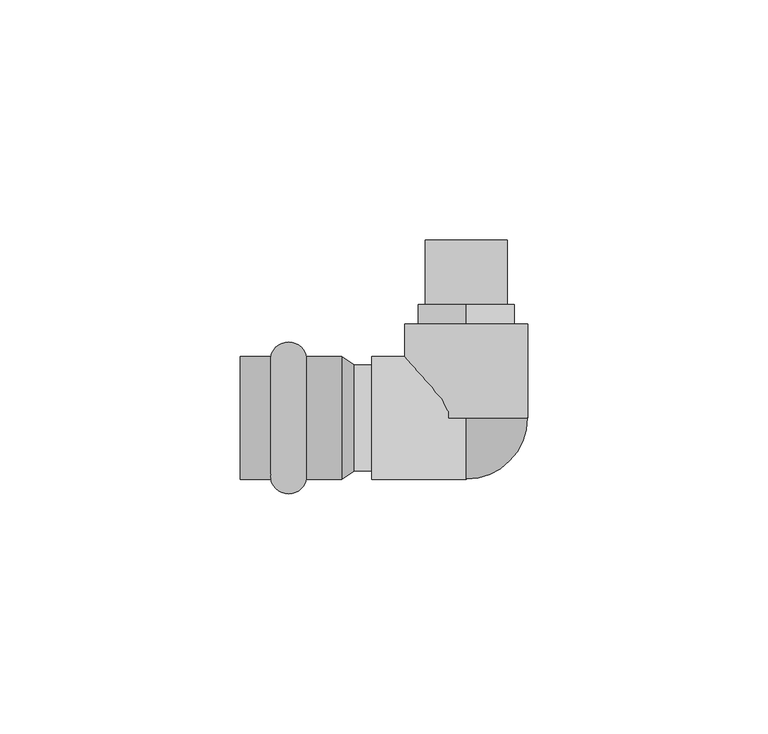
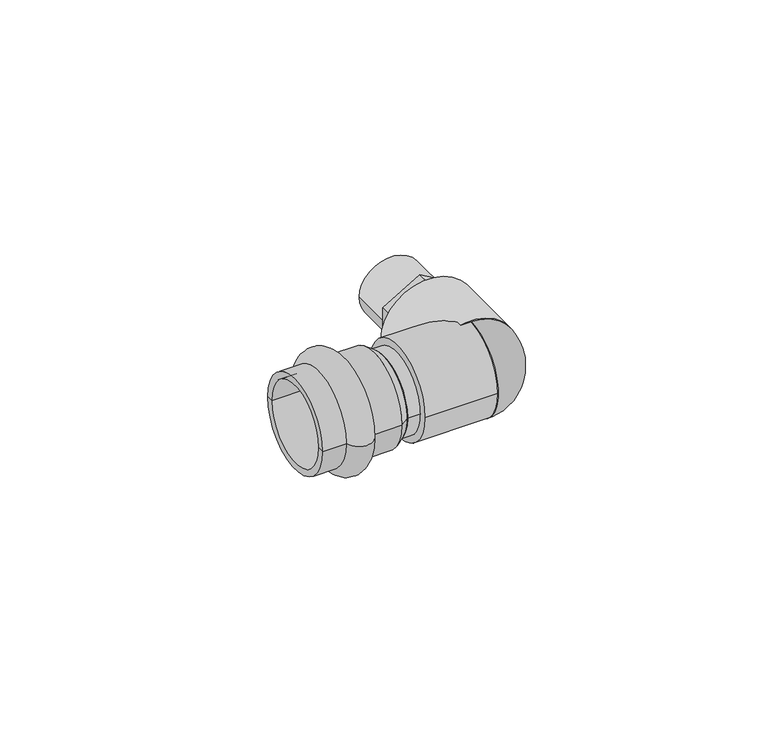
"""IFC4 building model written with IfcOpenShell, lengths in millimetres: pipe fitting geometry, VALTEC_VTi.953.I_Угольник с переходом на наружную резьбу нержавеющая сталь : VTi.953.I."""

from ifc_helpers import new_model, si_unit, point, frame, origin, origin_2d, place, context, project, spatial, polyline, circle_curve, ellipse_curve, trimmed, segment, composite_curve, outline, extrude, source, transform, mapped, element, save
from ifc_brep_helpers import plane_surface, cylinder_surface, revolved_surface, advanced_brep


def pipe_fitting_cbdede38(model_context):
    return source(origin(), model_context, "Body", "SolidModel", [
        advanced_brep(
        [(-40.6242346, -12.8, 0.0), (-40.6242346, 12.8, 0.0), (-33.2757654, 12.8, 0.0), (-33.2757654, -12.8, 0.0), (-47.0, -12.8, 0.0), (-47.0, 12.8, 0.0), (-47.0, -11.0, 0.0), (-47.0, 11.0, 0.0), (-25.85, -11.0, 0.0), (-25.85, 11.0, 0.0), (-25.85, -12.8, 0.0), (-25.85, 12.8, 0.0)],
        [
            (0, 1, circle_curve(frame((-40.6242346, 0.0, 0.0), z_axis=(1.0, 0.0, 0.0), x_axis=(0.0, 1.0, 0.0)), 12.8)),
            (1, 2, circle_curve(frame((-36.95, 12.05, 0.0), z_axis=(0.0, 0.0, -1.0), x_axis=(1.0, 0.0, 0.0)), 3.75)),
            (2, 3, circle_curve(frame((-33.2757654, 0.0, 0.0), z_axis=(-1.0, 0.0, 0.0), x_axis=(0.0, 1.0, 0.0)), 12.8)),
            (3, 0, circle_curve(frame((-36.95, -12.05, 0.0), z_axis=(0.0, 0.0, -1.0), x_axis=(1.0, 0.0, 0.0)), 3.75)),
            (1, 0, circle_curve(frame((-40.6242346, 0.0, 0.0), z_axis=(1.0, 0.0, 0.0), x_axis=(0.0, 1.0, 0.0)), 12.8)),
            (3, 2, circle_curve(frame((-33.2757654, 0.0, 0.0), z_axis=(-1.0, 0.0, 0.0), x_axis=(0.0, 1.0, 0.0)), 12.8)),
            (4, 5, circle_curve(frame((-47.0, 0.0, 0.0), z_axis=(1.0, 0.0, 0.0), x_axis=(0.0, 1.0, 0.0)), 12.8)),
            (5, 1),
            (0, 4),
            (5, 4, circle_curve(frame((-47.0, 0.0, 0.0), z_axis=(1.0, 0.0, 0.0), x_axis=(0.0, 1.0, 0.0)), 12.8)),
            (6, 7, circle_curve(frame((-47.0, 0.0, 0.0), z_axis=(1.0, 0.0, 0.0), x_axis=(0.0, 1.0, 0.0)), 11.0)),
            (7, 5),
            (4, 6),
            (7, 6, circle_curve(frame((-47.0, 0.0, 0.0), z_axis=(1.0, 0.0, 0.0), x_axis=(0.0, 1.0, 0.0)), 11.0)),
            (8, 9, circle_curve(frame((-25.85, 0.0, 0.0), z_axis=(1.0, 0.0, 0.0), x_axis=(0.0, 1.0, 0.0)), 11.0)),
            (9, 7),
            (6, 8),
            (9, 8, circle_curve(frame((-25.85, 0.0, 0.0), z_axis=(1.0, 0.0, 0.0), x_axis=(0.0, 1.0, 0.0)), 11.0)),
            (10, 11, circle_curve(frame((-25.85, 0.0, 0.0), z_axis=(1.0, 0.0, 0.0), x_axis=(0.0, 1.0, 0.0)), 12.8)),
            (11, 9),
            (8, 10),
            (11, 10, circle_curve(frame((-25.85, 0.0, 0.0), z_axis=(1.0, 0.0, 0.0), x_axis=(0.0, 1.0, 0.0)), 12.8)),
            (2, 11),
            (10, 3),
        ],
        [
            revolved_surface(trimmed(ellipse_curve(frame((-36.95, 12.05, 0.0), z_axis=(0.0, 0.0, 1.0), x_axis=(1.0, 0.0, 0.0)), 3.75, 3.75), [point((-33.2757654, 12.8, 0.0))], [point((-40.6242346, 12.8, 0.0))], True, "CARTESIAN"), (-50.5364426, 0.0, 0.0), (-1.0, 0.0, 0.0)),
            cylinder_surface(frame((-50.5364426, 0.0, 0.0), z_axis=(-1.0, 0.0, 0.0), x_axis=(0.0, 1.0, 0.0)), 12.8),
            plane_surface(frame((-47.0, 0.0, 0.0), z_axis=(-1.0, 0.0, 0.0), x_axis=(0.0, 1.0, 0.0))),
            revolved_surface(polyline([(-47.0, 11.0, 0.0), (-25.85, 11.0, 0.0)]), (-50.5364426, 0.0, 0.0), (-1.0, 0.0, 0.0)),
            plane_surface(frame((-25.85, 0.0, 0.0), z_axis=(1.0, 0.0, 0.0), x_axis=(0.0, 1.0, 0.0))),
        ],
        [
            (0, [[1, 2, 3, 4]]),
            (0, [[5, -4, 6, -2]]),
            (1, [[7, 8, -1, 9]]),
            (1, [[10, -9, -5, -8]]),
            (2, [[11, 12, -7, 13]]),
            (2, [[14, -13, -10, -12]]),
            (3, [[15, 16, -11, 17]]),
            (3, [[18, -17, -14, -16]]),
            (4, [[19, 20, -15, 21]]),
            (4, [[22, -21, -18, -20]]),
            (1, [[-3, 23, -19, 24]]),
            (1, [[-6, -24, -22, -23]]),
        ],
    ),
        extrude(outline(composite_curve([segment(trimmed(circle_curve(origin_2d(), 8.5), [point((0.0, -8.5))], [point((0.0, 8.5))], False, "CARTESIAN"), True, "CONTINUOUS"), segment(trimmed(circle_curve(origin_2d(), 8.5), [point((0.0, 8.5))], [point((0.0, -8.5))], False, "CARTESIAN"), True, "CONTINUOUS")], self_intersect=False), holes=[composite_curve([segment(trimmed(circle_curve(origin_2d(), 7.5), [point((0.0, -7.5))], [point((0.0, 7.5))], True, "CARTESIAN"), True, "CONTINUOUS"), segment(trimmed(circle_curve(origin_2d(), 7.5), [point((0.0, 7.5))], [point((0.0, -7.5))], True, "CARTESIAN"), True, "CONTINUOUS")], self_intersect=False)]), frame((0.0, 23.5714286, 0.0), z_axis=(0.0, 1.0, 0.0), x_axis=(0.0, 0.0, 1.0)), (0.0, 0.0, 1.0), 13.4285714),
        extrude(outline(polyline([(11.5470054, 0.0), (5.7735027, -10.0), (-5.7735027, -10.0), (-11.5470054, 0.0), (-5.7735027, 10.0), (5.7735027, 10.0), (11.5470054, 0.0)]), holes=[composite_curve([segment(trimmed(circle_curve(origin_2d(), 7.5), [point((0.0, -7.5))], [point((0.0, 7.5))], True, "CARTESIAN"), True, "CONTINUOUS"), segment(trimmed(circle_curve(origin_2d(), 7.5), [point((0.0, 7.5))], [point((0.0, -7.5))], True, "CARTESIAN"), True, "CONTINUOUS")], self_intersect=False)]), frame((0.0, 19.5428571, 0.0), z_axis=(0.0, 1.0, 0.0), x_axis=(0.0, 0.0, 1.0)), (0.0, 0.0, 1.0), 4.0285714),
        extrude(outline(composite_curve([segment(trimmed(circle_curve(origin_2d(), 12.8), [point((0.0, -12.8))], [point((0.0, 12.8))], False, "CARTESIAN"), True, "CONTINUOUS"), segment(trimmed(circle_curve(origin_2d(), 12.8), [point((0.0, 12.8))], [point((0.0, -12.8))], False, "CARTESIAN"), True, "CONTINUOUS")], self_intersect=False)), frame((0.0, 0.0, 0.0), z_axis=(0.0, 1.0, 0.0), x_axis=(0.0, 0.0, 1.0)), (0.0, 0.0, 1.0), 19.5428571),
        advanced_brep(
        [(0.0, 0.0, -12.8), (0.0, 0.0, 12.8)],
        [
            (0, 1, circle_curve(frame((0.0, 0.0, 0.0), z_axis=(-1.0, 0.0, 0.0), x_axis=(0.0, -1.0, 0.0)), 12.8)),
            (1, 0),
            (1, 0, circle_curve(frame((0.0, 0.0, 0.0), z_axis=(0.0, 1.0, 0.0), x_axis=(1.0, 0.0, 0.0)), 12.8)),
        ],
        [
            plane_surface(frame((0.0, 0.0, 19.8086047), z_axis=(-1.0, 0.0, 0.0), x_axis=(0.0, -1.0, 0.0))),
            plane_surface(frame((0.0, 0.0, 19.8086047), z_axis=(0.0, 1.0, 0.0), x_axis=(1.0, 0.0, 0.0))),
            revolved_surface(trimmed(ellipse_curve(frame((0.0, 0.0, 0.0), z_axis=(-1.0, 0.0, 0.0), x_axis=(0.0, -1.0, 0.0)), 12.8, 12.8), [point((0.0, 0.0, -12.8))], [point((0.0, 0.0, 12.8))], True, "CARTESIAN"), (0.0, 0.0, 19.8086047), (0.0, 0.0, 1.0)),
        ],
        [
            (0, [[1, 2]]),
            (1, [[3, -2]]),
            (2, [[-1, -3]]),
        ],
    ),
        extrude(outline(composite_curve([segment(trimmed(circle_curve(origin_2d(), 12.8), [point((-12.8, 0.0))], [point((12.8, 0.0))], False, "CARTESIAN"), True, "CONTINUOUS"), segment(trimmed(circle_curve(origin_2d(), 12.8), [point((12.8, 0.0))], [point((-12.8, 0.0))], False, "CARTESIAN"), True, "CONTINUOUS")], self_intersect=False)), frame((-19.6390217, 0.0, 0.0), z_axis=(1.0, 0.0, 0.0), x_axis=(0.0, 1.0, 0.0)), (0.0, 0.0, 1.0), 19.6390217),
        extrude(outline(composite_curve([segment(trimmed(circle_curve(origin_2d(), 11.0), [point((-11.0, 0.0))], [point((11.0, 0.0))], False, "CARTESIAN"), True, "CONTINUOUS"), segment(trimmed(circle_curve(origin_2d(), 11.0), [point((11.0, 0.0))], [point((-11.0, 0.0))], False, "CARTESIAN"), True, "CONTINUOUS")], self_intersect=False)), frame((-23.265, 0.0, 0.0), z_axis=(1.0, 0.0, 0.0), x_axis=(0.0, 1.0, 0.0)), (0.0, 0.0, 1.0), 3.6259783),
        advanced_brep(
        [(-25.85, -12.8, 0.0), (-25.85, 12.8, 0.0), (-23.265, -11.0, 0.0), (-23.265, 11.0, 0.0)],
        [
            (0, 1, circle_curve(frame((-25.85, 0.0, 0.0), z_axis=(-1.0, 0.0, 0.0), x_axis=(0.0, -1.0, 0.0)), 12.8)),
            (1, 0, circle_curve(frame((-25.85, 0.0, 0.0), z_axis=(-1.0, 0.0, 0.0), x_axis=(0.0, 1.0, 0.0)), 12.8)),
            (2, 3, circle_curve(frame((-23.265, 0.0, 0.0), z_axis=(1.0, 0.0, 0.0), x_axis=(0.0, 1.0, 0.0)), 11.0)),
            (3, 2, circle_curve(frame((-23.265, 0.0, 0.0), z_axis=(1.0, 0.0, 0.0), x_axis=(0.0, -1.0, 0.0)), 11.0)),
            (2, 0),
            (1, 3),
        ],
        [
            plane_surface(frame((-25.85, 0.0, 0.0), z_axis=(-1.0, 0.0, 0.0), x_axis=(0.0, 0.0, -1.0))),
            plane_surface(frame((-23.265, 0.0, 0.0), z_axis=(1.0, 0.0, 0.0), x_axis=(0.0, 0.0, -1.0))),
            revolved_surface(polyline([(-23.265, -10.999999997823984, 0.0), (-25.85, -12.8, 0.0)]), (-7.4677778, 0.0, 0.0), (-1.0, 0.0, 0.0)),
            revolved_surface(polyline([(-23.265, 10.999999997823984, 0.0), (-25.85, 12.8, 0.0)]), (-7.4677778, 0.0, 0.0), (-1.0, 0.0, 0.0)),
        ],
        [
            (0, [[1, 2]]),
            (1, [[3, 4]]),
            (2, [[-3, 5, -2, 6]]),
            (3, [[-4, -6, -1, -5]]),
        ],
    ),
    ])


if __name__ == "__main__":
    model = new_model("IFC4")
    model_context = context("Model", 3, world=origin())
    ifc_project = project(units=[si_unit("LENGTHUNIT", "METRE", prefix="MILLI")], contexts=[model_context])
    site = spatial("IfcSite", under=ifc_project)
    building = spatial("IfcBuilding", under=site)
    placement = place(None, origin())
    pipe_fitting_shape = pipe_fitting_cbdede38(model_context)
    element("IfcPipeFitting", 1, ObjectType="VALTEC_VTi.953.I_Угольник с переходом на наружную резьбу нержавеющая сталь : VTi.953.I", at=placement, inside=building, context=model_context, shape_type="MappedRepresentation", body=[
        mapped(pipe_fitting_shape, transform((0.0, 0.0, 0.0), x_axis=(1.0, 0.0, 0.0), y_axis=(0.0, 1.0, 0.0), z_axis=(0.0, 0.0, 1.0))),
    ])
    save(model, "model.ifc")
